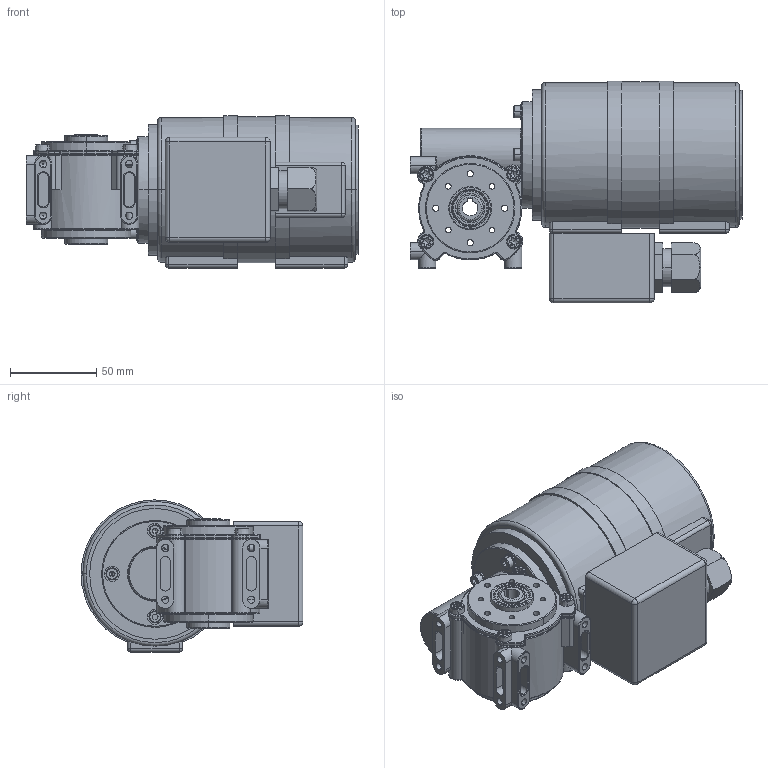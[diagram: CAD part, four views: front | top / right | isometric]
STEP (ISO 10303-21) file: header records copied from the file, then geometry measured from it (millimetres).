
FILE_DESCRIPTION (( 'STEP AP214' ), '1' );
FILE_NAME ('SN18H_45W_1400Upm_B.STEP', '2021-03-17T07:48:22', ( '' ), ( '' ), 'SwSTEP 2.0', 'SolidWorks 2019', '' );
FILE_SCHEMA (( 'AUTOMOTIVE_DESIGN' ));
Length unit declared in the file: millimetre
Products named in the file (1): SN18H_45W_1400Upm_B
Bounding box: 193 x 129 x 88.5 mm (x, y, z)
Surface area: 97267.5 mm2 (no closed solid volume)
Topology: 0 solids, 18 shells, 621 faces, 1696 edges, 1084 vertices
Faces by surface type: cylinder 316, torus 127, plane 126, cone 30, sphere 18, bspline 4
Entity records: 29234 total; most frequent: CARTESIAN_POINT 6557, DIRECTION 3575, ORIENTED_EDGE 3099, EDGE_CURVE 1666, AXIS2_PLACEMENT_3D 1495, VERTEX_POINT 1081, CIRCLE 877, EDGE_LOOP 707
